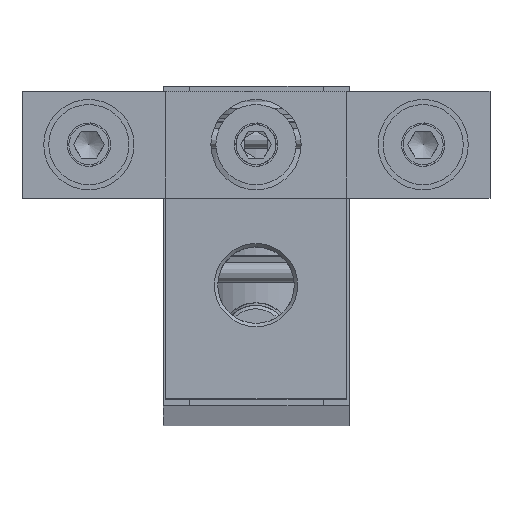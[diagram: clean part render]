
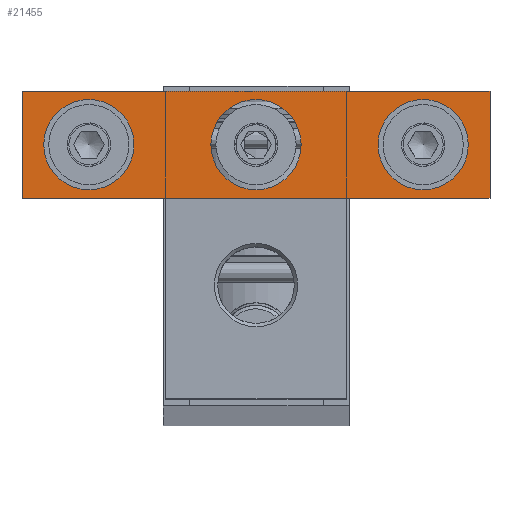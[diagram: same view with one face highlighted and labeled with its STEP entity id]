
A CAD part, top view. The second image highlights one B-rep face of the part: STEP entity #21455.
In plain terms, the highlighted planar face has unit normal (0, 0, 1).
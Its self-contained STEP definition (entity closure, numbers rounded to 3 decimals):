
#1477=LINE('',#41723,#2417);
#1510=LINE('',#41891,#2450);
#1513=LINE('',#41895,#2453);
#1515=LINE('',#41898,#2455);
#2417=VECTOR('',#29810,10.);
#2450=VECTOR('',#29981,10.);
#2453=VECTOR('',#29986,10.);
#2455=VECTOR('',#29990,10.);
#3283=FACE_BOUND('',#5648,.T.);
#3284=FACE_BOUND('',#5649,.T.);
#3285=FACE_BOUND('',#5650,.T.);
#4252=FACE_OUTER_BOUND('',#5647,.T.);
#5647=EDGE_LOOP('',(#17778,#17779,#17780,#17781));
#5648=EDGE_LOOP('',(#17782));
#5649=EDGE_LOOP('',(#17783));
#5650=EDGE_LOOP('',(#17784));
#7319=CIRCLE('',#24120,6.75);
#7321=CIRCLE('',#24124,6.75);
#7324=CIRCLE('',#24129,6.75);
#9378=VERTEX_POINT('',#41720);
#9379=VERTEX_POINT('',#41722);
#9422=VERTEX_POINT('',#41888);
#9423=VERTEX_POINT('',#41890);
#9426=VERTEX_POINT('',#41906);
#9428=VERTEX_POINT('',#41914);
#9431=VERTEX_POINT('',#41924);
#12224=EDGE_CURVE('',#9379,#9378,#1477,.T.);
#12299=EDGE_CURVE('',#9423,#9422,#1510,.T.);
#12302=EDGE_CURVE('',#9422,#9379,#1513,.T.);
#12304=EDGE_CURVE('',#9378,#9423,#1515,.T.);
#12308=EDGE_CURVE('',#9426,#9426,#7319,.T.);
#12312=EDGE_CURVE('',#9428,#9428,#7321,.T.);
#12317=EDGE_CURVE('',#9431,#9431,#7324,.T.);
#17778=ORIENTED_EDGE('',*,*,#12299,.T.);
#17779=ORIENTED_EDGE('',*,*,#12302,.T.);
#17780=ORIENTED_EDGE('',*,*,#12224,.T.);
#17781=ORIENTED_EDGE('',*,*,#12304,.T.);
#17782=ORIENTED_EDGE('',*,*,#12312,.F.);
#17783=ORIENTED_EDGE('',*,*,#12308,.F.);
#17784=ORIENTED_EDGE('',*,*,#12317,.F.);
#19248=PLANE('',#24128);
#21455=ADVANCED_FACE('',(#4252,#3283,#3284,#3285),#19248,.T.);
#24120=AXIS2_PLACEMENT_3D('',#41907,#30000,#30001);
#24124=AXIS2_PLACEMENT_3D('',#41915,#30010,#30011);
#24128=AXIS2_PLACEMENT_3D('',#41923,#30020,#30021);
#24129=AXIS2_PLACEMENT_3D('',#41925,#30022,#30023);
#29810=DIRECTION('',(-1.,0.,0.));
#29981=DIRECTION('',(1.,0.,0.));
#29986=DIRECTION('',(0.,1.,0.));
#29990=DIRECTION('',(0.,-1.,0.));
#30000=DIRECTION('center_axis',(0.,0.,
1.));
#30001=DIRECTION('ref_axis',(-1.,0.,0.));
#30010=DIRECTION('center_axis',(0.,0.,
1.));
#30011=DIRECTION('ref_axis',(-1.,0.,0.));
#30020=DIRECTION('center_axis',(0.,0.,
1.));
#30021=DIRECTION('ref_axis',(1.,0.,0.));
#30022=DIRECTION('center_axis',(0.,0.,
1.));
#30023=DIRECTION('ref_axis',(-1.,0.,0.));
#41720=CARTESIAN_POINT('',(-35.05,23.1,463.5));
#41722=CARTESIAN_POINT('',(34.95,23.1,463.5));
#41723=CARTESIAN_POINT('',(34.95,23.1,463.5));
#41888=CARTESIAN_POINT('',(34.95,7.1,463.5));
#41890=CARTESIAN_POINT('',(-35.05,7.1,463.5));
#41891=CARTESIAN_POINT('',(-35.05,7.1,463.5));
#41895=CARTESIAN_POINT('',(34.95,7.1,463.5));
#41898=CARTESIAN_POINT('',(-35.05,23.1,463.5));
#41906=CARTESIAN_POINT('',(-18.3,15.1,463.5));
#41907=CARTESIAN_POINT('Origin',(-25.05,15.1,463.5));
#41914=CARTESIAN_POINT('',(6.7,15.1,463.5));
#41915=CARTESIAN_POINT('Origin',(-0.05,15.1,463.5));
#41923=CARTESIAN_POINT('Origin',(-0.05,15.1,463.5));
#41924=CARTESIAN_POINT('',(31.7,15.1,463.5));
#41925=CARTESIAN_POINT('Origin',(24.95,15.1,463.5));
